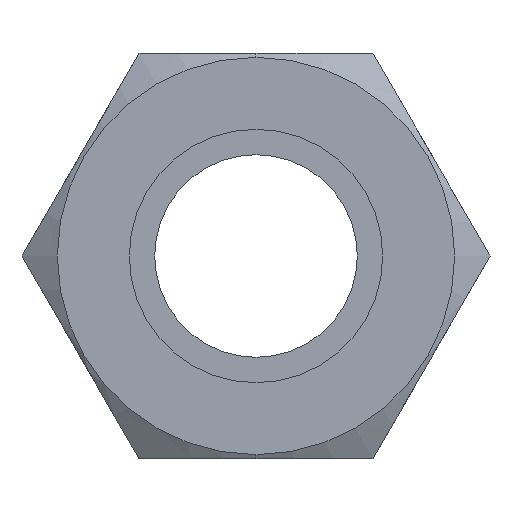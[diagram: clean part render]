
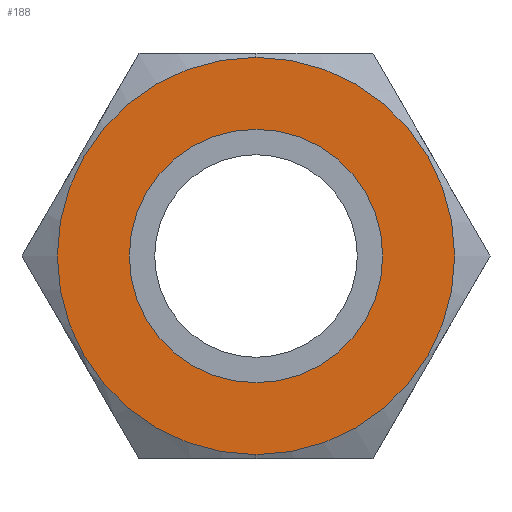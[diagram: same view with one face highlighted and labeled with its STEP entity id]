
A CAD part, left-side view. The second image highlights one B-rep face of the part: STEP entity #188.
In plain terms, the highlighted planar face has unit normal (-1, 0, 0).
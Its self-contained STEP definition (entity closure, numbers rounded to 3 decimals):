
#188 = ADVANCED_FACE ( 'NONE', ( #1096, #1091 ), #1090, .T. ) ;
#189 = EDGE_LOOP ( 'NONE', ( #190, #192 ) ) ;
#190 = ORIENTED_EDGE ( 'NONE', *, *, #191, .F. ) ;
#191 = EDGE_CURVE ( 'NONE', #701, #262, #1084, .T. ) ;
#192 = ORIENTED_EDGE ( 'NONE', *, *, #697, .F. ) ;
#193 = EDGE_LOOP ( 'NONE', ( #341, #342 ) ) ;
#262 = VERTEX_POINT ( 'NONE', #1267 ) ;
#341 = ORIENTED_EDGE ( 'NONE', *, *, #696, .T. ) ;
#342 = ORIENTED_EDGE ( 'NONE', *, *, #343, .T. ) ;
#343 = EDGE_CURVE ( 'NONE', #523, #499, #1378, .T. ) ;
#499 = VERTEX_POINT ( 'NONE', #1748 ) ;
#523 = VERTEX_POINT ( 'NONE', #1783 ) ;
#696 = EDGE_CURVE ( 'NONE', #499, #523, #2098, .T. ) ;
#697 = EDGE_CURVE ( 'NONE', #262, #701, #2093, .T. ) ;
#701 = VERTEX_POINT ( 'NONE', #1934 ) ;
#1081 = DIRECTION ( 'NONE',  ( 0., 0., 1. ) ) ;
#1082 = DIRECTION ( 'NONE',  ( -1., 0., 0. ) ) ;
#1083 = AXIS2_PLACEMENT_3D ( 'NONE', #1088, #1082, #1081 ) ;
#1084 = CIRCLE ( 'NONE', #1083, 7.94 ) ;
#1085 = DIRECTION ( 'NONE',  ( 0., 0., 1. ) ) ;
#1086 = DIRECTION ( 'NONE',  ( -1., 0., 0. ) ) ;
#1087 = AXIS2_PLACEMENT_3D ( 'NONE', #1089, #1086, #1085 ) ;
#1088 = CARTESIAN_POINT ( 'NONE',  ( -22.2, 0., 0. ) ) ;
#1089 = CARTESIAN_POINT ( 'NONE',  ( -22.2, 14.665, 0. ) ) ;
#1090 = PLANE ( 'NONE',  #1087 ) ;
#1091 = FACE_OUTER_BOUND ( 'NONE', #193, .T. ) ;
#1096 = FACE_BOUND ( 'NONE', #189, .T. ) ;
#1267 = CARTESIAN_POINT ( 'NONE',  ( -22.2, 0., -7.94 ) ) ;
#1374 = DIRECTION ( 'NONE',  ( 0., 0., 1. ) ) ;
#1375 = DIRECTION ( 'NONE',  ( -1., 0., 0. ) ) ;
#1376 = CARTESIAN_POINT ( 'NONE',  ( -22.2, 0., 0. ) ) ;
#1377 = AXIS2_PLACEMENT_3D ( 'NONE', #1376, #1375, #1374 ) ;
#1378 = CIRCLE ( 'NONE', #1377, 12.45 ) ;
#1748 = CARTESIAN_POINT ( 'NONE',  ( -22.2, 0., 12.45 ) ) ;
#1783 = CARTESIAN_POINT ( 'NONE',  ( -22.2, 0., -12.45 ) ) ;
#1934 = CARTESIAN_POINT ( 'NONE',  ( -22.2, 0., 7.94 ) ) ;
#2089 = DIRECTION ( 'NONE',  ( 0., 0., 1. ) ) ;
#2090 = DIRECTION ( 'NONE',  ( -1., 0., 0. ) ) ;
#2091 = CARTESIAN_POINT ( 'NONE',  ( -22.2, 0., 0. ) ) ;
#2092 = AXIS2_PLACEMENT_3D ( 'NONE', #2091, #2090, #2089 ) ;
#2093 = CIRCLE ( 'NONE', #2092, 7.94 ) ;
#2094 = DIRECTION ( 'NONE',  ( 0., 0., 1. ) ) ;
#2095 = DIRECTION ( 'NONE',  ( -1., 0., 0. ) ) ;
#2096 = CARTESIAN_POINT ( 'NONE',  ( -22.2, 0., 0. ) ) ;
#2097 = AXIS2_PLACEMENT_3D ( 'NONE', #2096, #2095, #2094 ) ;
#2098 = CIRCLE ( 'NONE', #2097, 12.45 ) ;
